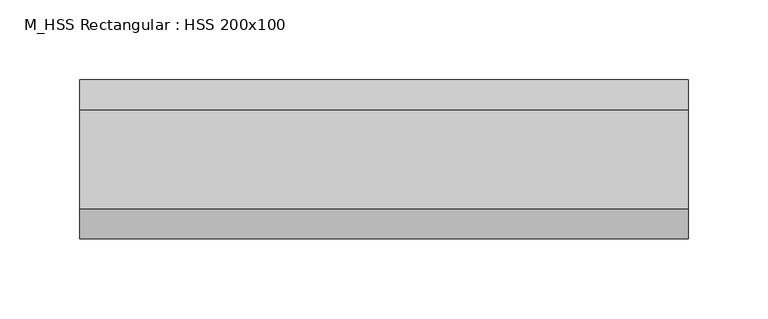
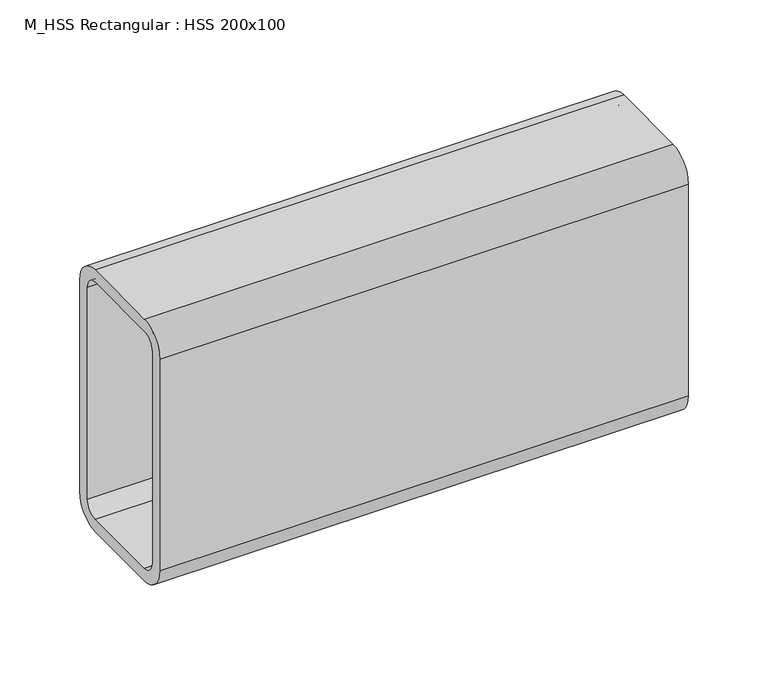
"""IFC4 building model written with IfcOpenShell, lengths in millimetres: beam geometry, M_HSS Rectangular : HSS 200x100."""

from ifc_helpers import new_model, si_unit, point, frame, frame_2d, origin, place, context, project, spatial, polyline, circle_curve, trimmed, segment, composite_curve, outline, extrude, source, transform, mapped, element, save


def m_hss_rectangular_hss_200x100_80d761ef(model_context):
    return source(origin(), model_context, "Body", "SweptSolid", [
        extrude(outline(composite_curve([segment(polyline([(50.0, 80.94), (50.0, -80.94)]), True, "CONTINUOUS"), segment(trimmed(circle_curve(frame_2d((30.94, -80.94)), 19.06), [point((50.0, -80.94))], [point((30.94, -100.0))], False, "CARTESIAN"), True, "CONTINUOUS"), segment(polyline([(30.94, -100.0), (-30.94, -100.0)]), True, "CONTINUOUS"), segment(trimmed(circle_curve(frame_2d((-30.94, -80.94)), 19.06), [point((-30.94, -100.0))], [point((-50.0, -80.94))], False, "CARTESIAN"), True, "CONTINUOUS"), segment(polyline([(-50.0, -80.94), (-50.0, 80.94)]), True, "CONTINUOUS"), segment(trimmed(circle_curve(frame_2d((-30.94, 80.94)), 19.06), [point((-50.0, 80.94))], [point((-30.94, 100.0))], False, "CARTESIAN"), True, "CONTINUOUS"), segment(polyline([(-30.94, 100.0), (30.94, 100.0)]), True, "CONTINUOUS"), segment(trimmed(circle_curve(frame_2d((30.94, 80.94)), 19.06), [point((30.94, 100.0))], [point((50.0, 80.94))], False, "CARTESIAN"), True, "CONTINUOUS")], self_intersect=False), holes=[composite_curve([segment(trimmed(circle_curve(frame_2d((-30.94, 80.94)), 9.53), [point((-30.94, 90.47))], [point((-40.47, 80.94))], True, "CARTESIAN"), True, "CONTINUOUS"), segment(polyline([(-40.47, 80.94), (-40.47, -80.94)]), True, "CONTINUOUS"), segment(trimmed(circle_curve(frame_2d((-30.94, -80.94)), 9.53), [point((-40.47, -80.94))], [point((-30.94, -90.47))], True, "CARTESIAN"), True, "CONTINUOUS"), segment(polyline([(-30.94, -90.47), (30.94, -90.47)]), True, "CONTINUOUS"), segment(trimmed(circle_curve(frame_2d((30.94, -80.94)), 9.53), [point((30.94, -90.47))], [point((40.47, -80.94))], True, "CARTESIAN"), True, "CONTINUOUS"), segment(polyline([(40.47, -80.94), (40.47, 80.94)]), True, "CONTINUOUS"), segment(trimmed(circle_curve(frame_2d((30.94, 80.94)), 9.53), [point((40.47, 80.94))], [point((30.94, 90.47))], True, "CARTESIAN"), True, "CONTINUOUS"), segment(polyline([(30.94, 90.47), (-30.94, 90.47)]), True, "CONTINUOUS")], self_intersect=False)]), frame((-214.3, 0.0, 0.0), z_axis=(1.0, 0.0, 0.0), x_axis=(0.0, 1.0, 0.0)), (0.0, 0.0, 1.0), 382.2),
    ])


if __name__ == "__main__":
    model = new_model("IFC4")
    model_context = context("Model", 3, world=origin())
    ifc_project = project(units=[si_unit("LENGTHUNIT", "METRE", prefix="MILLI")], contexts=[model_context])
    site = spatial("IfcSite", under=ifc_project)
    building = spatial("IfcBuilding", under=site)
    placement = place(None, origin())
    m_hss_rectangular_hss_200x100_shape = m_hss_rectangular_hss_200x100_80d761ef(model_context)
    element("IfcBeam", 1, ObjectType="M_HSS Rectangular : HSS 200x100", at=placement, inside=building, context=model_context, shape_type="MappedRepresentation", body=[
        mapped(m_hss_rectangular_hss_200x100_shape, transform((0.0, 0.0, 0.0), x_axis=(1.0, 0.0, 0.0), y_axis=(0.0, 1.0, 0.0), z_axis=(0.0, 0.0, 1.0))),
    ])
    save(model, "model.ifc")
